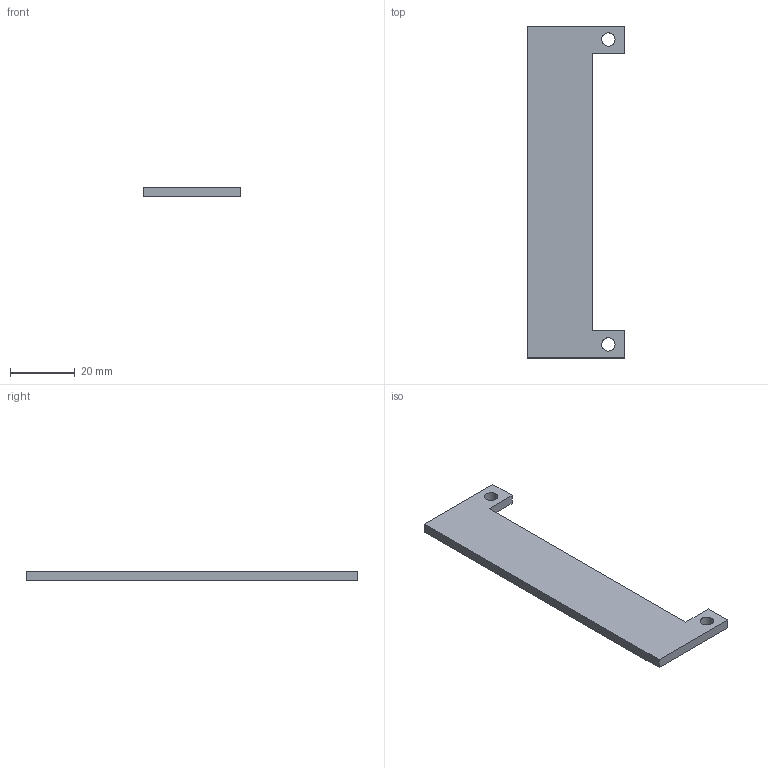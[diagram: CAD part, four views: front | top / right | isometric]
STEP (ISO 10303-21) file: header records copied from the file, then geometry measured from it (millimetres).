
FILE_DESCRIPTION ((), '1');
FILE_NAME ('C:\Users\tprototype\Desktop\TeslaGen Project\TeslaGen-v1 CAD Package\CNC Parts\Spark Gap\Plastic Cover\Plastic_Cover.stp', '2016-11-23T12:45:05', ('Unknown'), ('Unknown'), 'HarmonyWare STEP v1.7.11', 'HarmonyWare Translators', '');
FILE_SCHEMA (('CONFIG_CONTROL_DESIGN'));
Length unit declared in the file: millimetre
Products named in the file (1): product-name
Bounding box: 30 x 102.55 x 3 mm (x, y, z)
Volume: 6575.6 mm3; surface area: 5315.9 mm2
Topology: 1 solids, 1 shells, 12 faces, 30 edges, 20 vertices
Faces by surface type: bspline 12
Entity records: 475 total; most frequent: CARTESIAN_POINT 184, ORIENTED_EDGE 60, EDGE_CURVE 30, B_SPLINE_CURVE_WITH_KNOTS 26, VERTEX_POINT 20, EDGE_LOOP 16, FACE_OUTER_BOUND 12, ADVANCED_FACE 12
